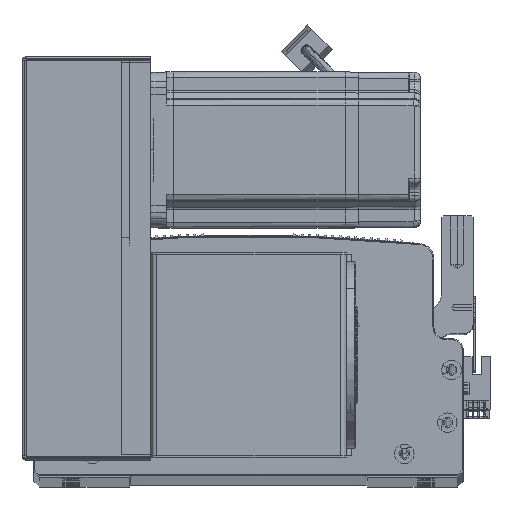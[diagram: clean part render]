
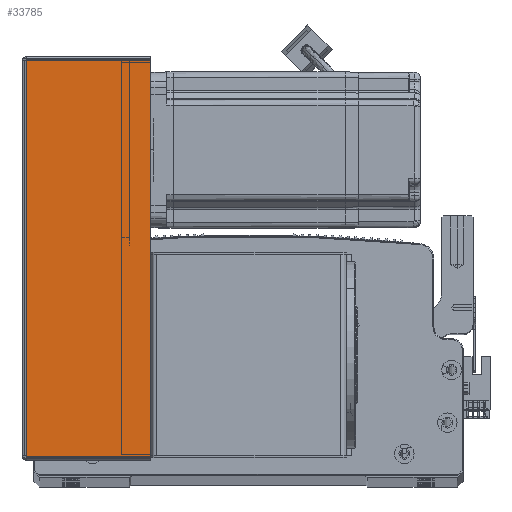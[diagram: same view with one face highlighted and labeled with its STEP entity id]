
A CAD part, top view. The second image highlights one B-rep face of the part: STEP entity #33785.
In plain terms, the highlighted planar face has unit normal (0, 0, 1) as drawn and (0, 1, 0) by its records, which use the part's own axes.
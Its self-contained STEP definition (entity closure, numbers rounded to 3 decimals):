
#482 = EDGE_CURVE ( 'NONE', #77920, #73115, #81692, .T. ) ;
#1662 = CARTESIAN_POINT ( 'NONE',  ( 64.5, 107.5, -204. ) ) ;
#5594 = VECTOR ( 'NONE', #24961, 1000. ) ;
#6811 = LINE ( 'NONE', #1662, #5594 ) ;
#15614 = DIRECTION ( 'NONE',  ( 0., -1., 0. ) ) ;
#23137 = EDGE_CURVE ( 'NONE', #32606, #96733, #29613, .T. ) ;
#24961 = DIRECTION ( 'NONE',  ( 0., 0., -1. ) ) ;
#26339 = CARTESIAN_POINT ( 'NONE',  ( 64.5, 107.5, -0.707 ) ) ;
#27641 = CARTESIAN_POINT ( 'NONE',  ( 0.737, 107.5, -0.707 ) ) ;
#28526 = ORIENTED_EDGE ( 'NONE', *, *, #68897, .F. ) ;
#29613 = LINE ( 'NONE', #63324, #61684 ) ;
#29747 = CARTESIAN_POINT ( 'NONE',  ( 64.5, 107.5, -203.293 ) ) ;
#32223 = EDGE_CURVE ( 'NONE', #73115, #96733, #6811, .T. ) ;
#32606 = VERTEX_POINT ( 'NONE', #69172 ) ;
#33785 = ADVANCED_FACE ( 'NONE', ( #75094 ), #60964, .F. ) ;
#39794 = CARTESIAN_POINT ( 'NONE',  ( 0., 107.5, 0. ) ) ;
#48682 = VECTOR ( 'NONE', #94152, 1000. ) ;
#49206 = CARTESIAN_POINT ( 'NONE',  ( 0.737, 107.5, 0. ) ) ;
#51181 = EDGE_LOOP ( 'NONE', ( #28526, #51854, #74837, #54992 ) ) ;
#51854 = ORIENTED_EDGE ( 'NONE', *, *, #482, .T. ) ;
#54992 = ORIENTED_EDGE ( 'NONE', *, *, #23137, .F. ) ;
#55646 = CARTESIAN_POINT ( 'NONE',  ( 0., 107.5, -0.707 ) ) ;
#56067 = DIRECTION ( 'NONE',  ( 1., 0., 0. ) ) ;
#60964 = PLANE ( 'NONE',  #75327 ) ;
#61585 = VECTOR ( 'NONE', #78118, 1000. ) ;
#61684 = VECTOR ( 'NONE', #56067, 1000. ) ;
#61881 = LINE ( 'NONE', #49206, #48682 ) ;
#63324 = CARTESIAN_POINT ( 'NONE',  ( 0., 107.5, -203.293 ) ) ;
#68897 = EDGE_CURVE ( 'NONE', #77920, #32606, #61881, .T. ) ;
#69172 = CARTESIAN_POINT ( 'NONE',  ( 0.737, 107.5, -203.293 ) ) ;
#73115 = VERTEX_POINT ( 'NONE', #26339 ) ;
#74837 = ORIENTED_EDGE ( 'NONE', *, *, #32223, .T. ) ;
#75094 = FACE_OUTER_BOUND ( 'NONE', #51181, .T. ) ;
#75327 = AXIS2_PLACEMENT_3D ( 'NONE', #39794, #15614, #92662 ) ;
#77920 = VERTEX_POINT ( 'NONE', #27641 ) ;
#78118 = DIRECTION ( 'NONE',  ( 1., 0., 0. ) ) ;
#81692 = LINE ( 'NONE', #55646, #61585 ) ;
#92662 = DIRECTION ( 'NONE',  ( 1., 0., 0. ) ) ;
#94152 = DIRECTION ( 'NONE',  ( 0., 0., -1. ) ) ;
#96733 = VERTEX_POINT ( 'NONE', #29747 ) ;
